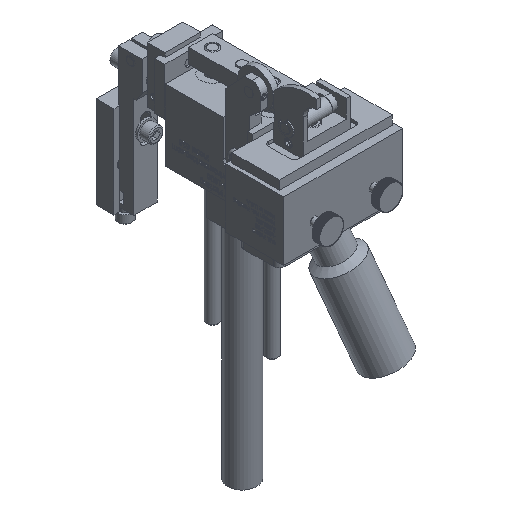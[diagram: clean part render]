
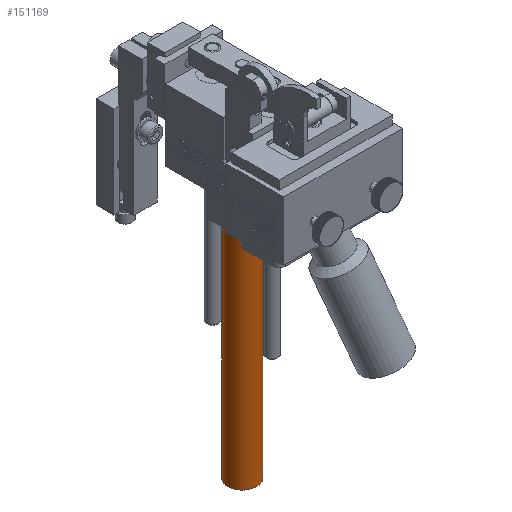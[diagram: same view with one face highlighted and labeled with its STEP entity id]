
A CAD part, isometric view. The second image highlights one B-rep face of the part: STEP entity #151169.
In plain terms, the highlighted cylindrical face has radius 7.747 mm (diameter 15.494 mm), a full revolution.
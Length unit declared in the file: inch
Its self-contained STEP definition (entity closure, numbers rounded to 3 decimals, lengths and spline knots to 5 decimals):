
#151142=CARTESIAN_POINT('',(0.2202,0.36387,0.375));
#151143=DIRECTION('',(1.0,0.,0.0));
#151144=DIRECTION('',(0.0,0.0,1.0));
#151145=AXIS2_PLACEMENT_3D('',#151142,#151143,#151144);
#151146=CYLINDRICAL_SURFACE('',#151145,0.305);
#151147=CARTESIAN_POINT('',(4.9702,0.36387,0.07));
#151148=VERTEX_POINT('',#151147);
#151149=CARTESIAN_POINT('',(4.9702,0.36387,0.375));
#151150=DIRECTION('',(-1.0,0.0,0.0));
#151151=DIRECTION('',(0.0,0.0,1.0));
#151152=AXIS2_PLACEMENT_3D('',#151149,#151150,#151151);
#151153=CIRCLE('',#151152,0.305);
#151154=EDGE_CURVE('',#151148,#151148,#151153,.T.);
#151155=ORIENTED_EDGE('',*,*,#151154,.T.);
#151156=EDGE_LOOP('',(#151155));
#151157=FACE_OUTER_BOUND('',#151156,.T.);
#151158=CARTESIAN_POINT('',(0.2202,0.36387,0.07));
#151159=VERTEX_POINT('',#151158);
#151160=CARTESIAN_POINT('',(0.2202,0.36387,0.375));
#151161=DIRECTION('',(-1.0,0.0,0.0));
#151162=DIRECTION('',(0.0,0.0,1.0));
#151163=AXIS2_PLACEMENT_3D('',#151160,#151161,#151162);
#151164=CIRCLE('',#151163,0.305);
#151165=EDGE_CURVE('',#151159,#151159,#151164,.T.);
#151166=ORIENTED_EDGE('',*,*,#151165,.F.);
#151167=EDGE_LOOP('',(#151166));
#151168=FACE_BOUND('',#151167,.T.);
#151169=ADVANCED_FACE('',(#151157,#151168),#151146,.T.);
